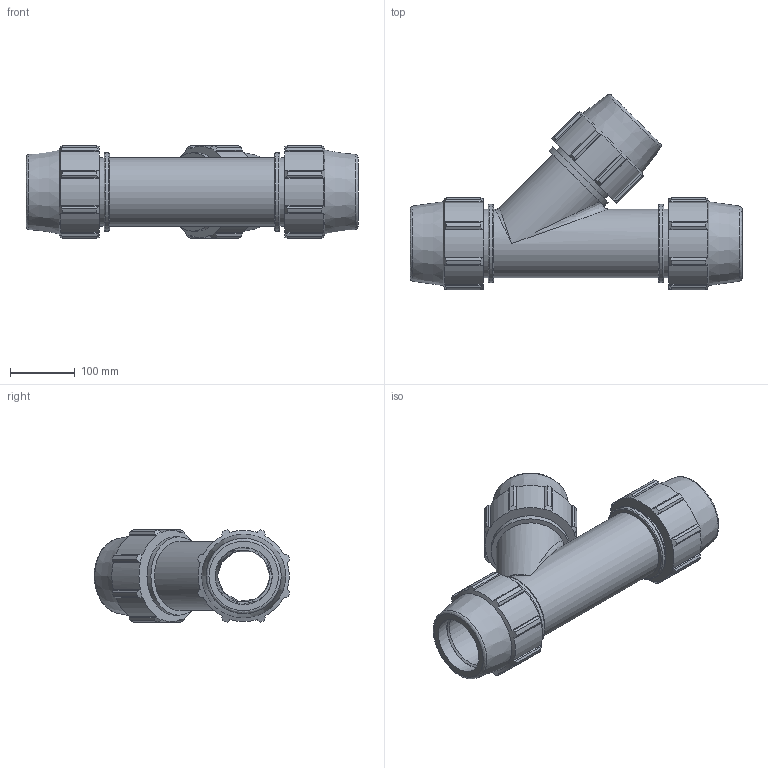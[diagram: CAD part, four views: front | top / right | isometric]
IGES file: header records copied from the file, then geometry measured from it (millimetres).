
Global section: file name: 0764M0030.ipt; native system: Autodesk Inventor 2019; preprocessor: unknown; author: Кирилл,,11,0; organization: 20170224.180708; date: 20210826.124901; units: inch
Bounding box: 514.1 x 302.94 x 142.92 mm (x, y, z)
Volume: 3975286 mm3; surface area: 521343.5 mm2
Topology: 1 solids, 1 shells, 221 faces, 634 edges, 423 vertices
Faces by surface type: plane 115, cylinder 57, cone 30, revolution 17, bspline 2
Full cylindrical faces by diameter (mm): 106.324 x4, 121.514 x3
